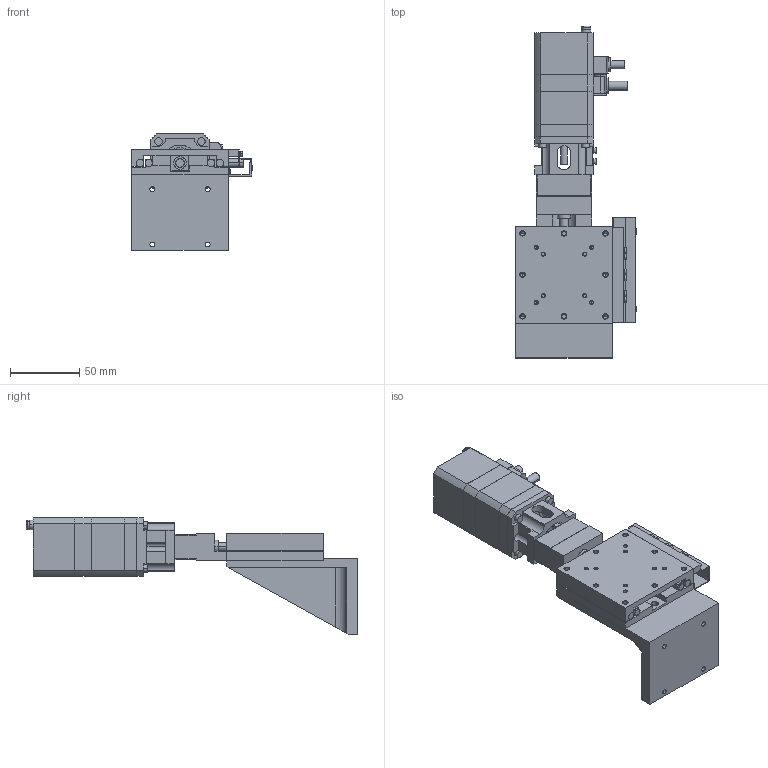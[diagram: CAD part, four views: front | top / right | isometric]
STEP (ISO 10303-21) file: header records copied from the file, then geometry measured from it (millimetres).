
FILE_DESCRIPTION(('STEP AP203'),'1');
FILE_NAME('C:/3D-Trans/3D_PZG715T-R□-MA4+240125.step','2024-03-14T08:21:57',(' '),(' '),'Spatial InterOp 3D',' ',' ');
FILE_SCHEMA(('CONFIG_CONTROL_DESIGN'));
Length unit declared in the file: millimetre
Products named in the file (7): 1; 2; 3; 4; 5; 6; 7
Bounding box: 87.4 x 240 x 84 mm (x, y, z)
Volume: 348713.7 mm3; surface area: 102300.7 mm2
Topology: 7 solids, 7 shells, 748 faces, 1922 edges, 1211 vertices
Faces by surface type: plane 385, cylinder 267, cone 92, torus 4
Entity records: 23160 total; most frequent: CARTESIAN_POINT 4140, DIRECTION 4036, ORIENTED_EDGE 3788, EDGE_CURVE 1894, AXIS2_PLACEMENT_3D 1401, LINE 1234, VECTOR 1234, VERTEX_POINT 1211
